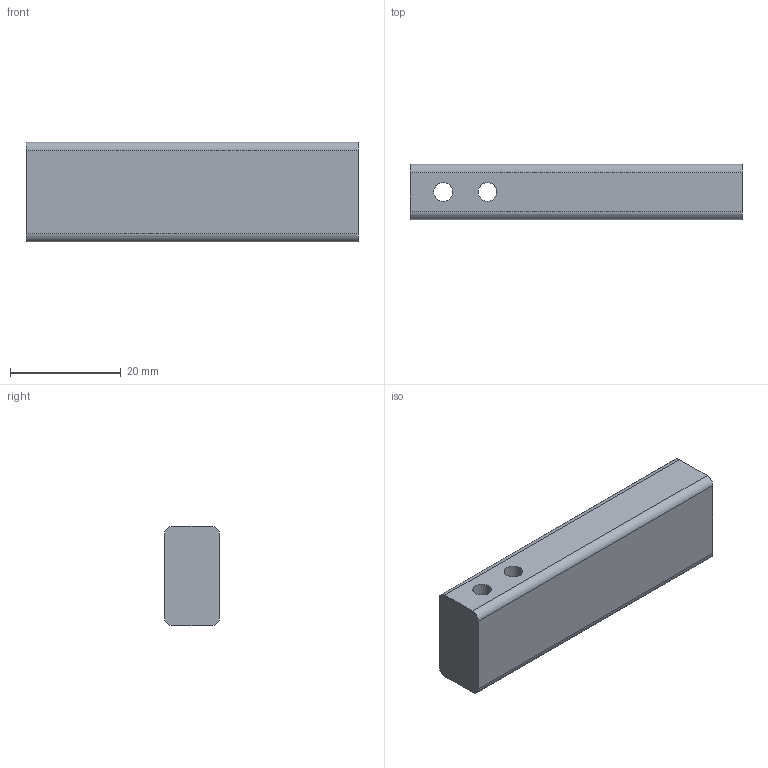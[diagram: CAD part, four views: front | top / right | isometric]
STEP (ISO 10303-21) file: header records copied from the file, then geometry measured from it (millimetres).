
FILE_DESCRIPTION(('Open CASCADE Model'),'2;1');
FILE_NAME('Open CASCADE Shape Model','2026-10-17T16:45:07',('Author'),( 'Open CASCADE'),'Open CASCADE STEP processor 8.0','build123d', 'Unknown');
FILE_SCHEMA(('AUTOMOTIVE_DESIGN { 1 0 10303 214 1 1 1 1 }'));
Length unit declared in the file: millimetre
Products named in the file (1): COMPOUND
Bounding box: 60 x 10 x 18 mm (x, y, z)
Volume: 10357.3 mm3; surface area: 3909.8 mm2
Topology: 1 solids, 1 shells, 12 faces, 30 edges, 20 vertices
Faces by surface type: plane 6, cylinder 6
Full cylindrical faces by diameter (mm): 3.4 x2
Entity records: 786 total; most frequent: CARTESIAN_POINT 147, DIRECTION 124, LINE 66, VECTOR 66, ORIENTED_EDGE 60, PCURVE 60, DEFINITIONAL_REPRESENTATION 60, EDGE_CURVE 30
